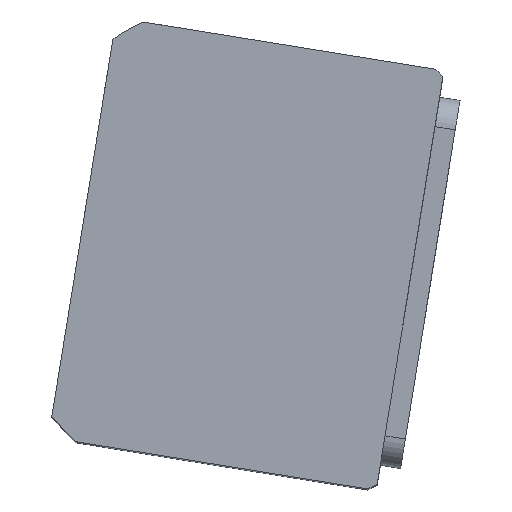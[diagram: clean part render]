
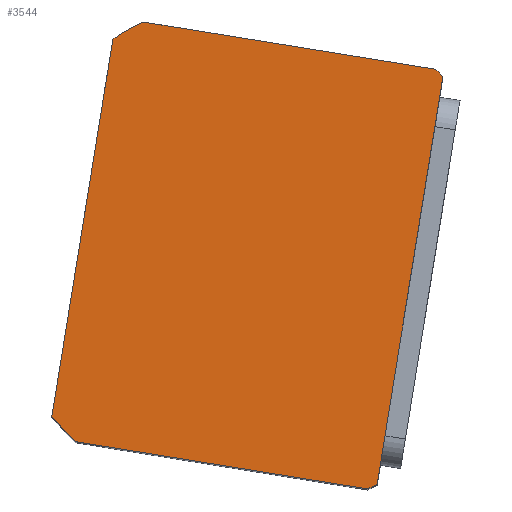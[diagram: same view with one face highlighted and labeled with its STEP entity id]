
A CAD part, top view. The second image highlights one B-rep face of the part: STEP entity #3544.
In plain terms, the highlighted planar face has unit normal (0, 0, 1) as drawn and (0, 0, -1) by its records, which use the part's own axes.
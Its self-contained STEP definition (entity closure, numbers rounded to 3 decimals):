
#24 = EDGE_CURVE ( 'NONE', #2444, #1622, #15181, .T. ) ;
#101 = ORIENTED_EDGE ( 'NONE', *, *, #10564, .F. ) ;
#194 = VECTOR ( 'NONE', #2325, 1000. ) ;
#265 = AXIS2_PLACEMENT_3D ( 'NONE', #10514, #3557, #13403 ) ;
#495 = DIRECTION ( 'NONE',  ( 0., 0., 1. ) ) ;
#748 = CARTESIAN_POINT ( 'NONE',  ( -55.374, 44.5, 0. ) ) ;
#1372 = DIRECTION ( 'NONE',  ( 0., 0., 1. ) ) ;
#1622 = VERTEX_POINT ( 'NONE', #4279 ) ;
#1768 = CARTESIAN_POINT ( 'NONE',  ( 55.374, 44.5, 0. ) ) ;
#2147 = PLANE ( 'NONE',  #265 ) ;
#2285 = VERTEX_POINT ( 'NONE', #8745 ) ;
#2325 = DIRECTION ( 'NONE',  ( 0., 1., 0. ) ) ;
#2444 = VERTEX_POINT ( 'NONE', #13106 ) ;
#2844 = DIRECTION ( 'NONE',  ( 0., 0., 1. ) ) ;
#3062 = VERTEX_POINT ( 'NONE', #16612 ) ;
#3143 = LINE ( 'NONE', #17164, #17694 ) ;
#3544 = ADVANCED_FACE ( 'NONE', ( #13371 ), #2147, .F. ) ;
#3557 = DIRECTION ( 'NONE',  ( 0., 0., 1. ) ) ;
#3608 = CARTESIAN_POINT ( 'NONE',  ( 57., 44.5, 0. ) ) ;
#4279 = CARTESIAN_POINT ( 'NONE',  ( 57., 42.265, 0. ) ) ;
#4490 = CARTESIAN_POINT ( 'NONE',  ( 0., 2.5, 0. ) ) ;
#4802 = ORIENTED_EDGE ( 'NONE', *, *, #11153, .F. ) ;
#5099 = ORIENTED_EDGE ( 'NONE', *, *, #6234, .F. ) ;
#5753 = ORIENTED_EDGE ( 'NONE', *, *, #9688, .F. ) ;
#5907 = DIRECTION ( 'NONE',  ( 1., 0., 0. ) ) ;
#6234 = EDGE_CURVE ( 'NONE', #7683, #3062, #15555, .T. ) ;
#6539 = EDGE_CURVE ( 'NONE', #3062, #2285, #3143, .T. ) ;
#7683 = VERTEX_POINT ( 'NONE', #8690 ) ;
#7774 = CIRCLE ( 'NONE', #8309, 69.5 ) ;
#8309 = AXIS2_PLACEMENT_3D ( 'NONE', #9817, #1372, #11207 ) ;
#8552 = LINE ( 'NONE', #8779, #15129 ) ;
#8690 = CARTESIAN_POINT ( 'NONE',  ( -57., -37.265, 0. ) ) ;
#8745 = CARTESIAN_POINT ( 'NONE',  ( 51.198, -44.5, 0. ) ) ;
#8779 = CARTESIAN_POINT ( 'NONE',  ( -57., 44.5, 0. ) ) ;
#8894 = CIRCLE ( 'NONE', #17506, 69.5 ) ;
#8950 = CARTESIAN_POINT ( 'NONE',  ( 0., 2.5, 0. ) ) ;
#9620 = AXIS2_PLACEMENT_3D ( 'NONE', #8950, #495, #10359 ) ;
#9688 = EDGE_CURVE ( 'NONE', #2285, #2444, #8894, .T. ) ;
#9817 = CARTESIAN_POINT ( 'NONE',  ( 0., 2.5, 0. ) ) ;
#9966 = CIRCLE ( 'NONE', #10075, 69.5 ) ;
#10075 = AXIS2_PLACEMENT_3D ( 'NONE', #4490, #14336, #5907 ) ;
#10359 = DIRECTION ( 'NONE',  ( 1., 0., 0. ) ) ;
#10514 = CARTESIAN_POINT ( 'NONE',  ( 0., 0., 0. ) ) ;
#10564 = EDGE_CURVE ( 'NONE', #14521, #10983, #7774, .T. ) ;
#10983 = VERTEX_POINT ( 'NONE', #13285 ) ;
#11153 = EDGE_CURVE ( 'NONE', #11403, #14521, #16364, .T. ) ;
#11207 = DIRECTION ( 'NONE',  ( 1., 0., 0. ) ) ;
#11266 = CARTESIAN_POINT ( 'NONE',  ( 0., 2.5, 0. ) ) ;
#11403 = VERTEX_POINT ( 'NONE', #1768 ) ;
#11422 = DIRECTION ( 'NONE',  ( -1., 0., 0. ) ) ;
#12556 = ORIENTED_EDGE ( 'NONE', *, *, #6539, .F. ) ;
#12615 = VECTOR ( 'NONE', #11422, 1000. ) ;
#12684 = DIRECTION ( 'NONE',  ( 1., 0., 0. ) ) ;
#12738 = ORIENTED_EDGE ( 'NONE', *, *, #13502, .F. ) ;
#12847 = CARTESIAN_POINT ( 'NONE',  ( -57., 44.5, 0. ) ) ;
#13106 = CARTESIAN_POINT ( 'NONE',  ( 57., -37.265, 0. ) ) ;
#13285 = CARTESIAN_POINT ( 'NONE',  ( -57., 42.265, 0. ) ) ;
#13371 = FACE_OUTER_BOUND ( 'NONE', #14715, .T. ) ;
#13403 = DIRECTION ( 'NONE',  ( 1., 0., 0. ) ) ;
#13502 = EDGE_CURVE ( 'NONE', #1622, #11403, #9966, .T. ) ;
#14336 = DIRECTION ( 'NONE',  ( 0., 0., 1. ) ) ;
#14372 = DIRECTION ( 'NONE',  ( 0., -1., 0. ) ) ;
#14521 = VERTEX_POINT ( 'NONE', #748 ) ;
#14715 = EDGE_LOOP ( 'NONE', ( #12738, #16753, #5753, #12556, #5099, #15959, #101, #4802 ) ) ;
#15129 = VECTOR ( 'NONE', #14372, 1000. ) ;
#15181 = LINE ( 'NONE', #3608, #194 ) ;
#15555 = CIRCLE ( 'NONE', #9620, 69.5 ) ;
#15794 = DIRECTION ( 'NONE',  ( 1., 0., 0. ) ) ;
#15959 = ORIENTED_EDGE ( 'NONE', *, *, #16726, .F. ) ;
#16364 = LINE ( 'NONE', #12847, #12615 ) ;
#16612 = CARTESIAN_POINT ( 'NONE',  ( -51.198, -44.5, 0. ) ) ;
#16726 = EDGE_CURVE ( 'NONE', #10983, #7683, #8552, .T. ) ;
#16753 = ORIENTED_EDGE ( 'NONE', *, *, #24, .F. ) ;
#17164 = CARTESIAN_POINT ( 'NONE',  ( -57., -44.5, 0. ) ) ;
#17506 = AXIS2_PLACEMENT_3D ( 'NONE', #11266, #2844, #12684 ) ;
#17694 = VECTOR ( 'NONE', #15794, 1000. ) ;
